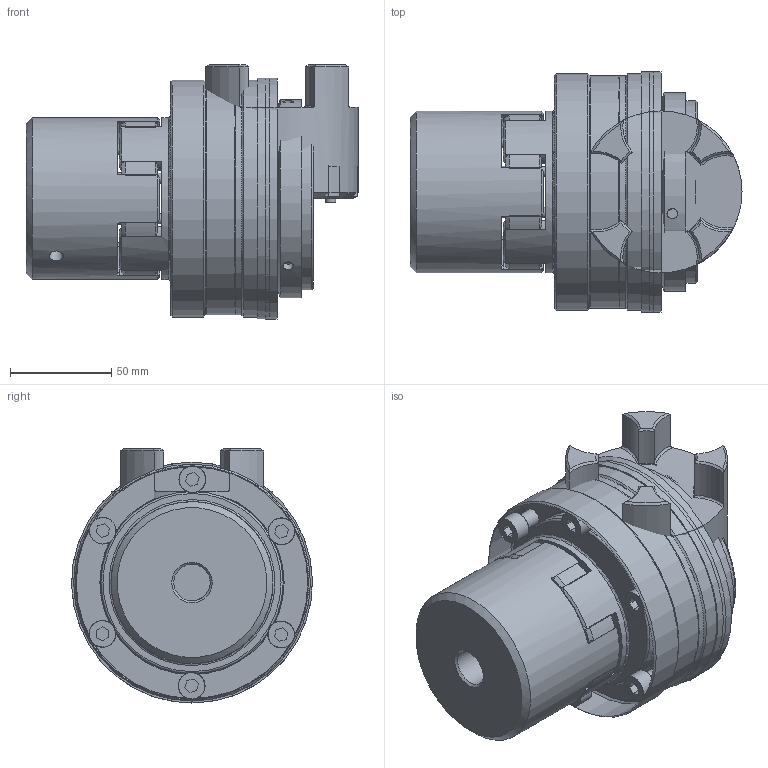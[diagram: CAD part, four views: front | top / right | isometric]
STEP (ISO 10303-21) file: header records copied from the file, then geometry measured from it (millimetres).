
FILE_DESCRIPTION( ( 'Unknown' ), '1' );
FILE_NAME( 'K:/Daten/homepage/cad - homepage/KBK-E-PP/KBK EPP-38.stp', 'Unknown', ( 'Unknown' ), ( 'Unknown' ), 'XStep 1.0', 'Unknown', ' ' );
FILE_SCHEMA( ( 'automotive_design' ) );
Length unit declared in the file: millimetre
Products named in the file (15): Assem1; Assem2; Assem3; ball_bearing_-_6011_0_01; ball_bearing_-_6011_0_02; ball_bearing_-_6011_0_03; Zylinderschraube DIN 912_1; Stellring 300; Druckring 300; Flansch 300; a_55; Zahnkranz_38_Standard; KBE 1 - 38_Nabe; Kupplung L-P-300 Grundkörper; Elastomerflansch 38
Bounding box: 164 x 119 x 125.5 mm (x, y, z)
Volume: 1730974 mm3; surface area: 446157.1 mm2
Topology: 33 solids, 33 shells, 785 faces, 1770 edges, 1111 vertices
Faces by surface type: cylinder 284, plane 228, cone 216, torus 57
Full cylindrical faces by diameter (mm): 2.5 x4, 3.242 x6, 5 x16, 5.2 x6, 6.647 x12, 6.8 x2, 8 x8, 8.2 x12, 13 x8, 13.2 x12, 18 x2, 38 x4, 40 x2, 52 x2, 55 x7, 56 x2, 66.3 x6, 70 x2, 76 x4, 79.1 x6, 80 x4, 83.5 x2, 88 x2, 90 x7, 98 x2, 98.5 x2, 115 x4, 117 x2, 119 x2
Entity records: 10266 total; most frequent: CARTESIAN_POINT 2405, DIRECTION 1660, ORIENTED_EDGE 1304, AXIS2_PLACEMENT_3D 771, EDGE_CURVE 652, EDGE_LOOP 514, VERTEX_POINT 460, FACE_OUTER_BOUND 422
